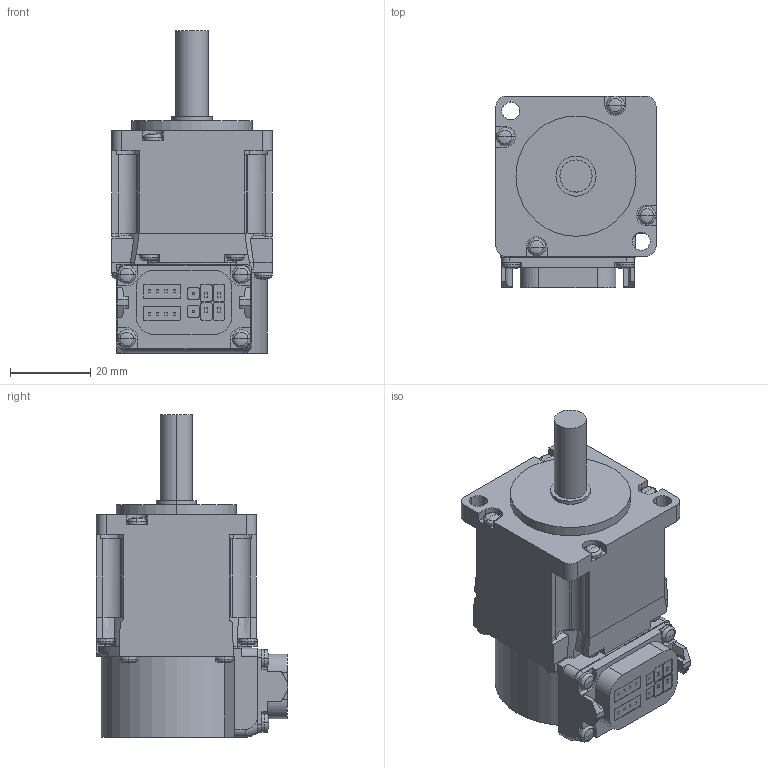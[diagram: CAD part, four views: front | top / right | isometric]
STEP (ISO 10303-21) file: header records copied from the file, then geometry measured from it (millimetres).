
FILE_DESCRIPTION((''),'2;1');
FILE_NAME('HK-KT053W_-_ASM','2019-01-15T',('XE90682'),(''),'CREO PARAMETRIC BY PTC INC, 2016380','CREO PARAMETRIC BY PTC INC, 2016380','');
FILE_SCHEMA(('CONFIG_CONTROL_DESIGN'));
Length unit declared in the file: millimetre
Products named in the file (1): HK-KT053W_-_ASM
Bounding box: 40 x 47.85 x 80.5 mm (x, y, z)
Volume: 82184.2 mm3; surface area: 13969.7 mm2
Topology: 1 solids, 1 shells, 466 faces, 1224 edges, 765 vertices
Faces by surface type: plane 251, cylinder 137, torus 34, sphere 32, bspline 12
Entity records: 14528 total; most frequent: CARTESIAN_POINT 2907, DIRECTION 2475, ORIENTED_EDGE 2384, EDGE_CURVE 1192, AXIS2_PLACEMENT_3D 854, VECTOR 767, LINE 767, VERTEX_POINT 765
